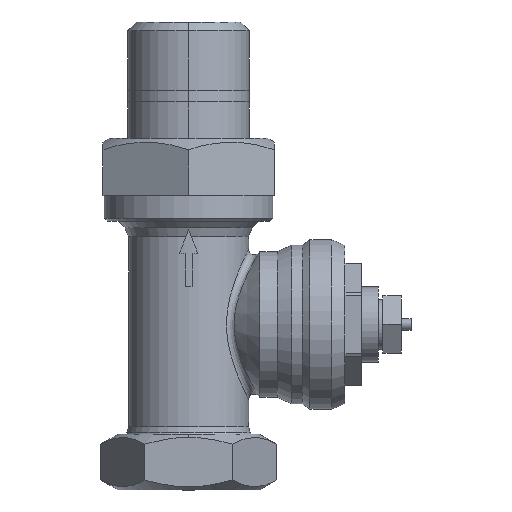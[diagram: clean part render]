
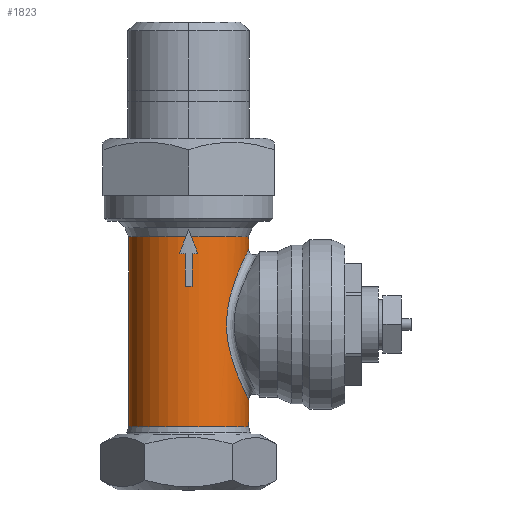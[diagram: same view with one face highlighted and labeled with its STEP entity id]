
A CAD part, left-side view. The second image highlights one B-rep face of the part: STEP entity #1823.
In plain terms, the highlighted cylindrical face has radius 10.5 mm (diameter 21 mm), a partial arc.
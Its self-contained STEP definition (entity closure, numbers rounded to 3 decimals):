
#307=CARTESIAN_POINT('',(0.,-10.5,3.089));
#308=VERTEX_POINT('',#307);
#309=CARTESIAN_POINT('',(0.,-10.5,7.836));
#310=VERTEX_POINT('',#309);
#311=CARTESIAN_POINT('',(0.,-10.5,3.089));
#312=DIRECTION('',(0.0,0.0,1.0));
#313=VECTOR('',#312,4.746);
#314=LINE('',#311,#313);
#315=EDGE_CURVE('',#308,#310,#314,.T.);
#317=CARTESIAN_POINT('',(0.,10.5,3.089));
#318=VERTEX_POINT('',#317);
#326=CARTESIAN_POINT('',(0.,10.5,36.357));
#327=VERTEX_POINT('',#326);
#328=CARTESIAN_POINT('',(0.,10.5,36.357));
#329=DIRECTION('',(0.0,0.0,-1.0));
#330=VECTOR('',#329,33.267);
#331=LINE('',#328,#330);
#332=EDGE_CURVE('',#327,#318,#331,.T.);
#334=CARTESIAN_POINT('',(0.,-10.5,36.357));
#335=VERTEX_POINT('',#334);
#343=CARTESIAN_POINT('',(0.,-10.5,34.164));
#344=VERTEX_POINT('',#343);
#345=CARTESIAN_POINT('',(0.,-10.5,34.164));
#346=DIRECTION('',(0.0,0.0,1.0));
#347=VECTOR('',#346,2.192);
#348=LINE('',#345,#347);
#349=EDGE_CURVE('',#344,#335,#348,.T.);
#1224=CARTESIAN_POINT('',(-4.98,-9.244,31.451));
#1225=VERTEX_POINT('',#1224);
#1226=CARTESIAN_POINT('',(-4.98,-9.244,31.451));
#1227=CARTESIAN_POINT('',(-4.644,-9.425,31.867));
#1228=CARTESIAN_POINT('',(-4.279,-9.598,32.251));
#1229=CARTESIAN_POINT('',(-3.879,-9.757,32.597));
#1230=CARTESIAN_POINT('',(-3.023,-10.098,33.338));
#1231=CARTESIAN_POINT('',(-1.985,-10.372,33.902));
#1232=CARTESIAN_POINT('',(-0.86,-10.465,34.092));
#1233=CARTESIAN_POINT('',(-0.576,-10.488,34.14));
#1234=CARTESIAN_POINT('',(-0.286,-10.5,34.164));
#1235=CARTESIAN_POINT('',(0.,-10.5,34.164));
#1236=B_SPLINE_CURVE_WITH_KNOTS('',3,(#1226,#1227,#1228,#1229,#1230,#1231,#1232,#1233,#1234,#1235),.UNSPECIFIED.,.F.,.U.,(4,3,3,4),(37.422,38.791,41.722,42.463),.UNSPECIFIED.);
#1237=EDGE_CURVE('',#1225,#344,#1236,.T.);
#1239=CARTESIAN_POINT('',(0.,-10.5,7.836));
#1240=CARTESIAN_POINT('',(-0.833,-10.5,7.836));
#1241=CARTESIAN_POINT('',(-1.662,-10.396,8.047));
#1242=CARTESIAN_POINT('',(-2.411,-10.219,8.417));
#1243=CARTESIAN_POINT('',(-3.432,-9.978,8.922));
#1244=CARTESIAN_POINT('',(-4.293,-9.616,9.693));
#1245=CARTESIAN_POINT('',(-5.003,-9.231,10.578));
#1246=CARTESIAN_POINT('',(-5.751,-8.826,11.511));
#1247=CARTESIAN_POINT('',(-6.34,-8.392,12.574));
#1248=CARTESIAN_POINT('',(-6.805,-7.997,13.714));
#1249=CARTESIAN_POINT('',(-7.455,-7.443,15.311));
#1250=CARTESIAN_POINT('',(-7.86,-6.968,17.054));
#1251=CARTESIAN_POINT('',(-8.04,-6.753,18.869));
#1252=CARTESIAN_POINT('',(-8.293,-6.452,21.411));
#1253=CARTESIAN_POINT('',(-8.088,-6.76,24.062));
#1254=CARTESIAN_POINT('',(-7.433,-7.417,26.433));
#1255=CARTESIAN_POINT('',(-6.92,-7.931,28.29));
#1256=CARTESIAN_POINT('',(-6.134,-8.622,30.023));
#1257=CARTESIAN_POINT('',(-4.98,-9.244,31.451));
#1258=B_SPLINE_CURVE_WITH_KNOTS('',3,(#1239,#1240,#1241,#1242,#1243,#1244,#1245,#1246,#1247,#1248,#1249,#1250,#1251,#1252,#1253,#1254,#1255,#1256,#1257),.UNSPECIFIED.,.F.,.U.,(4,3,3,3,3,3,4),(14.152,16.298,19.227,22.314,26.635,32.684,37.422),.UNSPECIFIED.);
#1259=EDGE_CURVE('',#1225,#310,#1258,.F.);
#1321=CARTESIAN_POINT('',(0.,0.,3.089));
#1322=DIRECTION('',(0.0,0.0,1.0));
#1323=DIRECTION('',(0.0,-1.0,0.0));
#1324=AXIS2_PLACEMENT_3D('',#1321,#1322,#1323);
#1325=CIRCLE('',#1324,10.5);
#1326=EDGE_CURVE('',#318,#308,#1325,.T.);
#1799=CARTESIAN_POINT('',(0.,0.,36.357));
#1800=DIRECTION('',(0.0,0.0,1.0));
#1801=DIRECTION('',(0.0,-1.0,0.0));
#1802=AXIS2_PLACEMENT_3D('',#1799,#1800,#1801);
#1803=CIRCLE('',#1802,10.5);
#1804=EDGE_CURVE('',#327,#335,#1803,.T.);
#1809=CARTESIAN_POINT('',(0.,0.,17.657));
#1810=DIRECTION('',(0.,0.,1.0));
#1811=DIRECTION('',(0.0,-1.0,0.0));
#1812=AXIS2_PLACEMENT_3D('',#1809,#1810,#1811);
#1813=CYLINDRICAL_SURFACE('',#1812,10.5);
#1814=ORIENTED_EDGE('',*,*,#315,.T.);
#1815=ORIENTED_EDGE('',*,*,#1259,.F.);
#1816=ORIENTED_EDGE('',*,*,#1237,.T.);
#1817=ORIENTED_EDGE('',*,*,#349,.T.);
#1818=ORIENTED_EDGE('',*,*,#1804,.F.);
#1819=ORIENTED_EDGE('',*,*,#332,.T.);
#1820=ORIENTED_EDGE('',*,*,#1326,.T.);
#1821=EDGE_LOOP('',(#1814,#1815,#1816,#1817,#1818,#1819,#1820));
#1822=FACE_OUTER_BOUND('',#1821,.T.);
#1823=ADVANCED_FACE('',(#1822),#1813,.T.);
